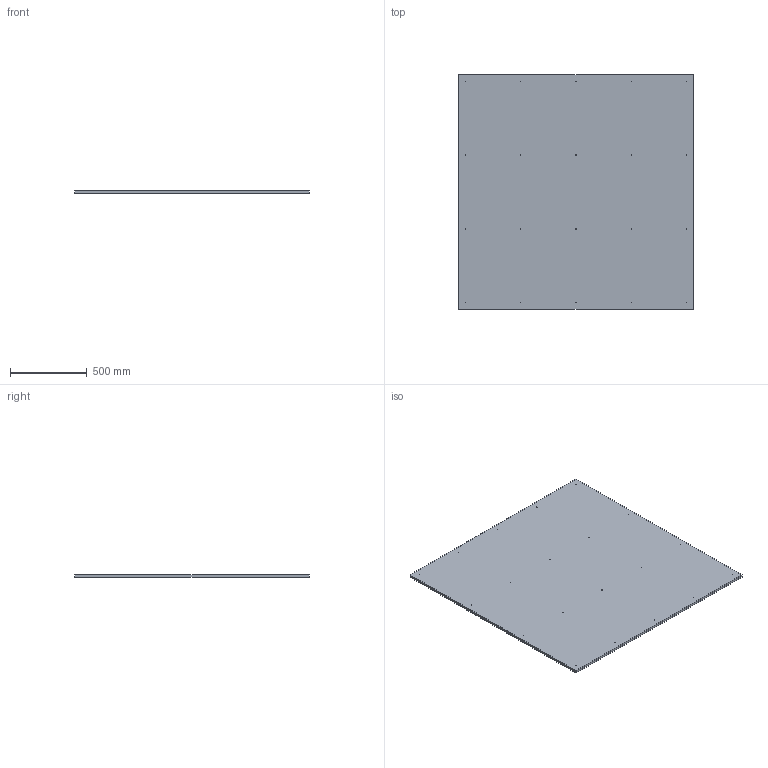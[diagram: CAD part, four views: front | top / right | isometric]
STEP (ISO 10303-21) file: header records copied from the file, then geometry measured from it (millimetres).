
FILE_DESCRIPTION(('Open CASCADE Model'),'2;1');
FILE_NAME('Open CASCADE Shape Model','2026-09-28T10:14:06',('Author'),( 'Open CASCADE'),'Open CASCADE STEP processor 7.9','Open CASCADE 7.9' ,'Unknown');
FILE_SCHEMA(('AUTOMOTIVE_DESIGN { 1 0 10303 214 1 1 1 1 }'));
Length unit declared in the file: millimetre
Products named in the file (1): Open CASCADE STEP translator 7.9 16
Bounding box: 1525 x 1525 x 18 mm (x, y, z)
Volume: 41859482.9 mm3; surface area: 4763681.1 mm2
Topology: 1 solids, 1 shells, 26 faces, 72 edges, 48 vertices
Faces by surface type: cylinder 20, plane 6
Full cylindrical faces by diameter (mm): 2.5 x20
Entity records: 1882 total; most frequent: DIRECTION 310, CARTESIAN_POINT 291, ORIENTED_EDGE 144, PCURVE 144, DEFINITIONAL_REPRESENTATION 144, LINE 136, VECTOR 136, CIRCLE 80
